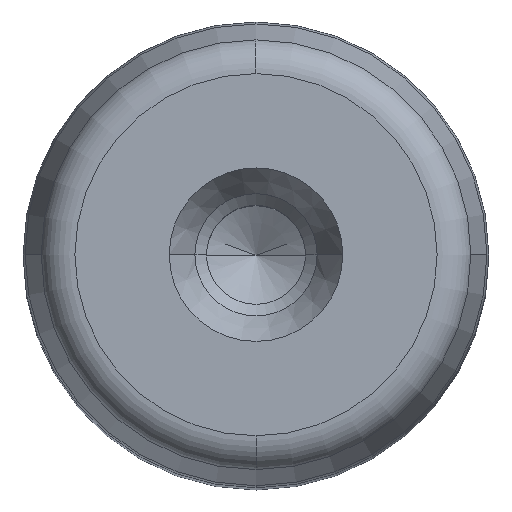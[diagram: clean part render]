
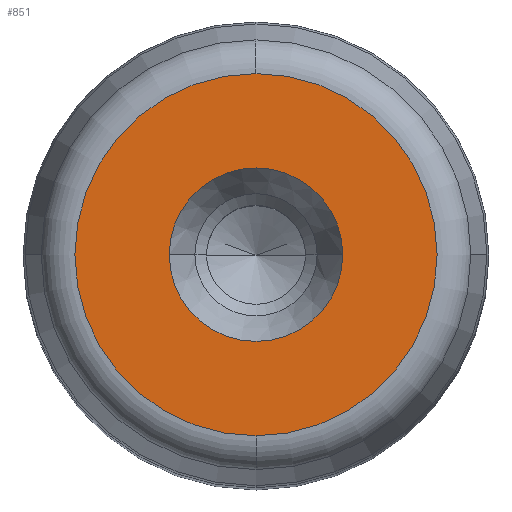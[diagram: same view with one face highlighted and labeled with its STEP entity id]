
A CAD part, top view. The second image highlights one B-rep face of the part: STEP entity #851.
In plain terms, the highlighted planar face has unit normal (0, 0, 1) as drawn and (0, 1, 0) by its records, which use the part's own axes.
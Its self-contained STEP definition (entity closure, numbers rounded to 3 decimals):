
#281=CARTESIAN_POINT('',(7.45,125.0,0.0));
#282=VERTEX_POINT('',#281);
#289=CARTESIAN_POINT('',(-7.45,125.0,0.));
#290=VERTEX_POINT('',#289);
#291=CARTESIAN_POINT('',(0.0,125.0,0.0));
#292=DIRECTION('',(0.0,1.0,0.0));
#293=DIRECTION('',(1.0,0.0,0.0));
#294=AXIS2_PLACEMENT_3D('',#291,#292,#293);
#295=CIRCLE('',#294,7.45);
#296=EDGE_CURVE('',#282,#290,#295,.T.);
#313=CARTESIAN_POINT('',(0.0,125.0,15.554));
#314=VERTEX_POINT('',#313);
#324=CARTESIAN_POINT('',(0.,125.0,-15.554));
#325=VERTEX_POINT('',#324);
#326=CARTESIAN_POINT('',(0.0,125.0,0.0));
#327=DIRECTION('',(0.0,1.0,0.0));
#328=DIRECTION('',(1.0,0.0,0.0));
#329=AXIS2_PLACEMENT_3D('',#326,#327,#328);
#330=CIRCLE('',#329,15.554);
#331=EDGE_CURVE('',#325,#314,#330,.T.);
#812=CARTESIAN_POINT('',(15.554,125.0,0.0));
#813=VERTEX_POINT('',#812);
#814=CARTESIAN_POINT('',(0.0,125.0,0.0));
#815=DIRECTION('',(0.0,1.0,0.0));
#816=DIRECTION('',(1.0,0.0,0.0));
#817=AXIS2_PLACEMENT_3D('',#814,#815,#816);
#818=CIRCLE('',#817,15.554);
#819=EDGE_CURVE('',#813,#325,#818,.T.);
#821=CARTESIAN_POINT('',(0.0,125.0,0.0));
#822=DIRECTION('',(0.0,1.0,0.0));
#823=DIRECTION('',(1.0,0.0,0.0));
#824=AXIS2_PLACEMENT_3D('',#821,#822,#823);
#825=CIRCLE('',#824,15.554);
#826=EDGE_CURVE('',#314,#813,#825,.T.);
#831=CARTESIAN_POINT('',(-17.11,125.0,-17.11));
#832=DIRECTION('',(0.0,1.0,0.0));
#833=DIRECTION('',(0.0,0.0,1.0));
#834=AXIS2_PLACEMENT_3D('',#831,#832,#833);
#835=PLANE('',#834);
#836=ORIENTED_EDGE('',*,*,#819,.T.);
#837=ORIENTED_EDGE('',*,*,#331,.T.);
#838=ORIENTED_EDGE('',*,*,#826,.T.);
#839=EDGE_LOOP('',(#836,#837,#838));
#840=FACE_OUTER_BOUND('',#839,.T.);
#841=ORIENTED_EDGE('',*,*,#296,.F.);
#842=CARTESIAN_POINT('',(0.0,125.0,0.0));
#843=DIRECTION('',(0.0,1.0,0.0));
#844=DIRECTION('',(1.0,0.0,0.0));
#845=AXIS2_PLACEMENT_3D('',#842,#843,#844);
#846=CIRCLE('',#845,7.45);
#847=EDGE_CURVE('',#290,#282,#846,.T.);
#848=ORIENTED_EDGE('',*,*,#847,.F.);
#849=EDGE_LOOP('',(#841,#848));
#850=FACE_BOUND('',#849,.T.);
#851=ADVANCED_FACE('',(#840,#850),#835,.T.);
